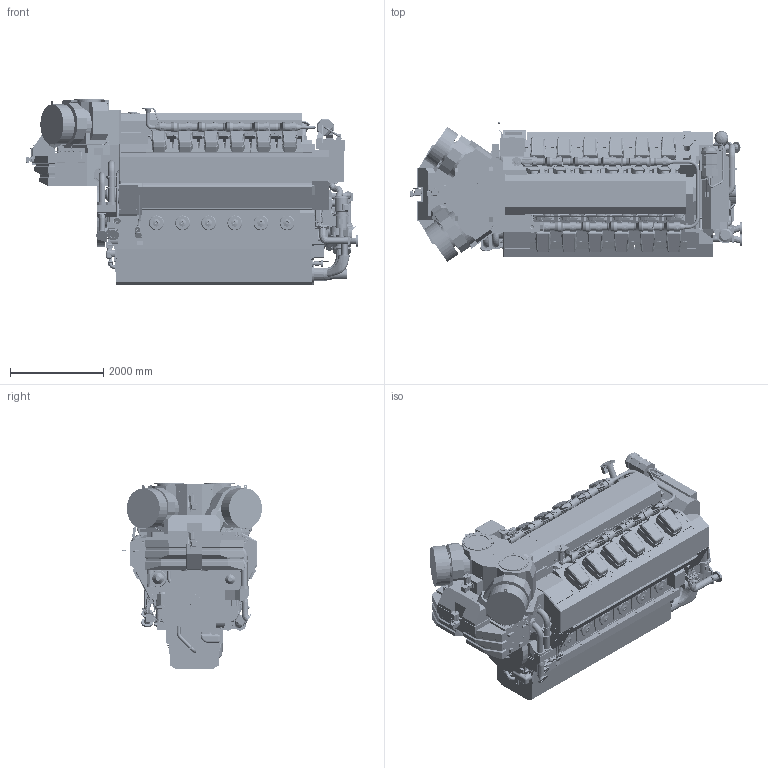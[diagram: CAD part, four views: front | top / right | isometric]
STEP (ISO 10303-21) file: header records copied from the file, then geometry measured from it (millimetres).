
FILE_DESCRIPTION(/* description */ (''),/* implementation_level */ '2;1');
FILE_NAME(/* name */ 'DAAF379623_A.stp',/* time_stamp */ '2021-12-13T11:17:00+02:00',/* author */ (''),/* organization */ (''),/* preprocessor_version */ 'ST-DEVELOPER v16.7',/* originating_system */ 'SIEMENS PLM Software NX 1915',/* authorisation */ '');
FILE_SCHEMA (('AUTOMOTIVE_DESIGN { 1 0 10303 214 3 1 1 1 }'));
Products named in the file (74): PABA274494_-; PABA173946_-; PAAF078607_-; PAAF243367_-; PAAF093851_-; PABA001563_-; PABA002426_-; PABA002081_-; PABA068010_-; PABA068052_-; PABA001772_-; PABA068023_-; PABA052478_-; PABA065852_-; PABA052425_-; PABA066964_-; PAAF245312_-; PAAF064329_-; PAAF064590_-; PAAF195815_-; PAAF063784_-; PAAF078635_-; PAAF243353_-; PAAF245462_-; PAAF785461_-; PAAF077590_-; PAAF078609_-; PAAF093826_-; PAAF924065_-; PAAF093449_-; PAAF078708_-; PAAF078536_-; PAAF259784_-; PAAF087147_-; PAAF087128_-; PAAF308705_-; PABA039601_-; PABA039759_-; PAAF308706_-; PAAF783084_-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
Assembly tree (97 placements, depth 2):
  PABA068063_-
    PAAF243684_-
    PAAF166694_-
    PAAF078077_-
    PAAF087123_-
    PAAF245468_-
    PAAF074394_-
    PAAF852803_-
    PAAF238216_-
    PAAF990034_-
    PAAF074412_-
    PAAF245056_-
    PAAF221967_-
    PAAF991059_-
    PAAF087117_-
    PAAF565855_-
    PAAF078239_-
    PAAF313561_-
    PAAF295070_-
    PAAF087113_-
    PAAF924067_-
    PAAF247464_-
    PABA034962_-
    PAAF063634_-
    PAAF304653_-
    PAAF078522_-
    PAAF087083_-
    PAAF243370_-
    PAAF078535_-
    PABA036926_-
    PAAF090571_-  x2
    PAAF221638_-
    PAAF313559_-
    PAAF783146_-
    PAAF783084_-
    PAAF308706_-
    PABA039759_-
    PABA039601_-
    PAAF308705_-
    PAAF087128_-
    PAAF087147_-
    PAAF259784_-
    PAAF078536_-
    PAAF078708_-
    PAAF093449_-
    PAAF924065_-
    PAAF093826_-
    PAAF078609_-
    PAAF077590_-
    PAAF785461_-
    PAAF245462_-
    PAAF243353_-  x2
    PAAF078635_-
    PAAF063784_-
    PAAF195815_-
    PAAF064590_-
    PAAF064329_-
    PAAF245312_-  x2
    PABA066964_-
    PABA052425_-
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Bounding box: 7119.67 x 2999.88 x 3995.51 mm (x, y, z)
Volume: 27228565127.8 mm3; surface area: 341833547.9 mm2
Topology: 421 solids, 567 shells, 19733 faces, 48201 edges, 30724 vertices
Faces by surface type: plane 10664, cylinder 5215, bspline 2603, torus 750, cone 339, extrusion 88, sphere 51, revolution 23
Full cylindrical faces by diameter (mm): 0.005 x8, 0.107 x1, 3.3 x12, 6 x19, 6.5 x12, 8 x48, 8.5 x1, 8.993 x3, 9 x42, 9.5 x1, 9.685 x1, 10 x33, 11 x37, 11.908 x1, 11.995 x1, 12 x74, 12.4 x1, 13.2 x4, 13.5 x9, 14 x92, 14.596 x1, 14.917 x1, 15 x42, 15.5 x4, 15.7 x4, 16 x54, 16.4 x2, 16.5 x3, 16.658 x1, 17 x11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
Entity records: 646465 total; most frequent: CARTESIAN_POINT 231874, ORIENTED_EDGE 83298, DIRECTION 81437, EDGE_CURVE 41649, AXIS2_PLACEMENT_3D 28269, VERTEX_POINT 27566, VECTOR 24878, LINE 24790
